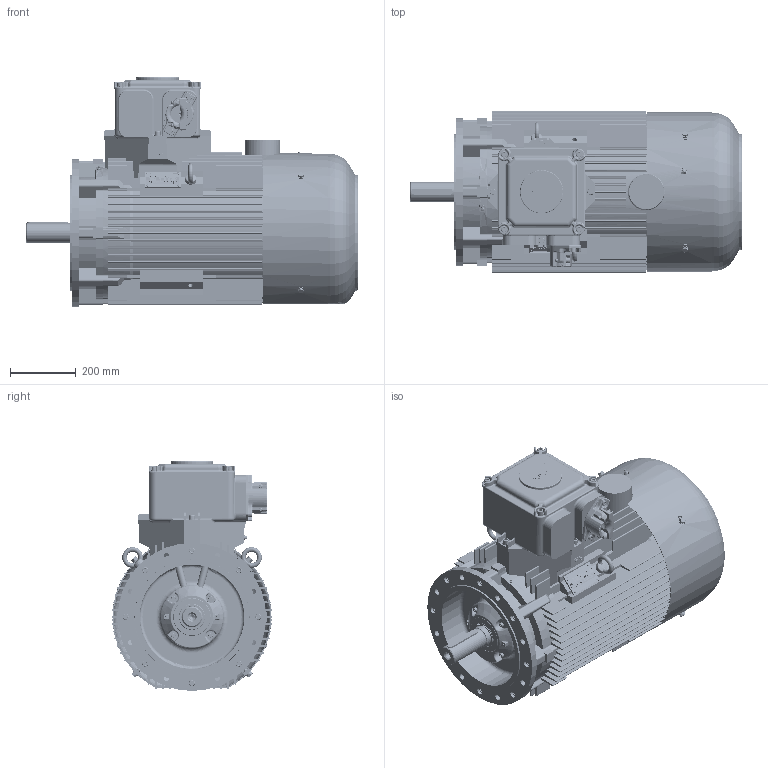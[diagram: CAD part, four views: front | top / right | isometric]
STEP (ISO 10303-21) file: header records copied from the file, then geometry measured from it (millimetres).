
FILE_DESCRIPTION(/* description */ ('Unknown'),/* implementation_level */ '2;1');
FILE_NAME(/* name */ 'Silnik EcSTKe225 (S,M)(4-8) - wykonanie OUTSIDE !',/* time_stamp */ '2021-12-27T08:34:25+01:00',/* author */ ('Unknown'),/* organization */ ('Unknown'),/* preprocessor_version */ 'ST-DEVELOPER v16.7',/* originating_system */ 'DEX',/* authorisation */ $);
FILE_SCHEMA (('AUTOMOTIVE_DESIGN {1 0 10303 214 3 1 1}'));
Products named in the file (1): Silnik EcSTKe225 (S,M)(4-8) - wykonanie OUTSIDE !
Bounding box: 1009.13 x 489.83 x 698.8 mm (x, y, z)
Volume: 30650028.6 mm3; surface area: 7025676.1 mm2
Topology: 3 solids, 68 shells, 8780 faces, 24135 edges, 15483 vertices
Faces by surface type: plane 5556, cylinder 1837, cone 424, torus 408, bspline 403, sphere 152
Full cylindrical faces by diameter (mm): 1.2 x4, 1.6 x2, 2.013 x1, 2.459 x3, 2.5 x2, 3 x8, 3.1 x4, 3.2 x2, 3.4 x6, 4.773 x1, 4.917 x4, 5 x3, 6 x2, 6.2 x14, 6.3 x1, 6.4 x2, 6.466 x8, 6.5 x1, 6.647 x4, 8 x17, 8.16 x4, 8.8 x1, 8.917 x4, 9 x8, 9.853 x24, 10 x20, 10.106 x25, 10.5 x4, 12 x52, 13 x8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
Entity records: 354973 total; most frequent: CARTESIAN_POINT 76077, ORIENTED_EDGE 45414, DIRECTION 42694, EDGE_CURVE 22707, LINE 15848, VECTOR 15848, VERTEX_POINT 14995, AXIS2_PLACEMENT_3D 13423
